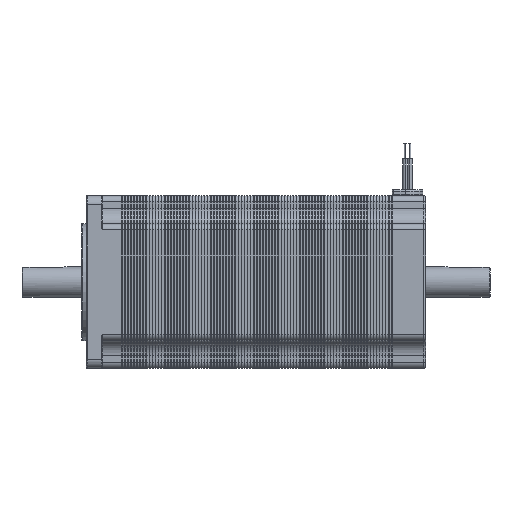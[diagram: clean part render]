
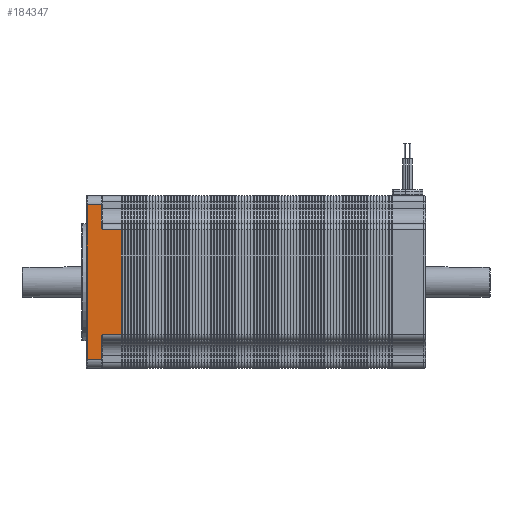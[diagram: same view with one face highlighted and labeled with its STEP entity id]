
A CAD part, left-side view. The second image highlights one B-rep face of the part: STEP entity #184347.
In plain terms, the highlighted planar face has unit normal (-1, 0, 0).
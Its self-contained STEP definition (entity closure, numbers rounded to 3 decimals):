
#2793 = CARTESIAN_POINT ( 'NONE',  ( -28.15, 105.3, -17. ) ) ;
#4144 = LINE ( 'NONE', #204596, #253954 ) ;
#9909 = CARTESIAN_POINT ( 'NONE',  ( -28.15, 110.5, -17. ) ) ;
#20121 = CARTESIAN_POINT ( 'NONE',  ( -28.15, 110.3, -25.15 ) ) ;
#20481 = EDGE_CURVE ( 'NONE', #45619, #99541, #4144, .T. ) ;
#23041 = VECTOR ( 'NONE', #101946, 1000. ) ;
#24345 = LINE ( 'NONE', #204063, #233262 ) ;
#27289 = VECTOR ( 'NONE', #246503, 1000. ) ;
#29866 = CARTESIAN_POINT ( 'NONE',  ( -28.15, 105.642, -17.823 ) ) ;
#36732 = EDGE_CURVE ( 'NONE', #45060, #283879, #41760, .T. ) ;
#36916 = LINE ( 'NONE', #126900, #23041 ) ;
#40984 = ORIENTED_EDGE ( 'NONE', *, *, #257391, .T. ) ;
#41760 = LINE ( 'NONE', #128791, #154842 ) ;
#45060 = VERTEX_POINT ( 'NONE', #2793 ) ;
#45619 = VERTEX_POINT ( 'NONE', #136235 ) ;
#53120 = EDGE_CURVE ( 'NONE', #228618, #99541, #150881, .T. ) ;
#56605 = VECTOR ( 'NONE', #184796, 1000. ) ;
#58598 = B_SPLINE_CURVE_WITH_KNOTS ( 'NONE', 3,
 ( #94891, #184632, #29866, #77100, #256784, #227374 ),
 .UNSPECIFIED., .F., .F.,
 ( 4, 2, 4 ),
 ( 0., 0.001, 0.001 ),
 .UNSPECIFIED. ) ;
#62019 = VERTEX_POINT ( 'NONE', #127206 ) ;
#62481 = CARTESIAN_POINT ( 'NONE',  ( -28.15, 105.5, -25.15 ) ) ;
#65725 = ORIENTED_EDGE ( 'NONE', *, *, #20481, .T. ) ;
#65806 = VECTOR ( 'NONE', #236710, 1000. ) ;
#66418 = CARTESIAN_POINT ( 'NONE',  ( -28.15, 105.7, 25.15 ) ) ;
#67718 = B_SPLINE_CURVE_WITH_KNOTS ( 'NONE', 3,
 ( #239286, #267327, #81755, #152372, #155271, #220096 ),
 .UNSPECIFIED., .F., .F.,
 ( 4, 2, 4 ),
 ( 0., 0.001, 0.001 ),
 .UNSPECIFIED. ) ;
#68230 = EDGE_CURVE ( 'NONE', #62019, #121652, #36916, .T. ) ;
#74904 = VERTEX_POINT ( 'NONE', #278764 ) ;
#77100 = CARTESIAN_POINT ( 'NONE',  ( -28.15, 105.491, -17.403 ) ) ;
#81598 = ORIENTED_EDGE ( 'NONE', *, *, #192171, .T. ) ;
#81755 = CARTESIAN_POINT ( 'NONE',  ( -28.15, 105.491, 17.403 ) ) ;
#94577 = ORIENTED_EDGE ( 'NONE', *, *, #174888, .T. ) ;
#94891 = CARTESIAN_POINT ( 'NONE',  ( -28.15, 105.7, -18.265 ) ) ;
#95636 = DIRECTION ( 'NONE',  ( 0., 0., -1. ) ) ;
#98029 = DIRECTION ( 'NONE',  ( 0., 0., 1. ) ) ;
#99541 = VERTEX_POINT ( 'NONE', #20121 ) ;
#101946 = DIRECTION ( 'NONE',  ( 0., -1., 0. ) ) ;
#114840 = CARTESIAN_POINT ( 'NONE',  ( -28.15, 99.1, -17. ) ) ;
#121601 = EDGE_CURVE ( 'NONE', #228618, #74904, #24345, .T. ) ;
#121652 = VERTEX_POINT ( 'NONE', #272010 ) ;
#124605 = ORIENTED_EDGE ( 'NONE', *, *, #154557, .T. ) ;
#126900 = CARTESIAN_POINT ( 'NONE',  ( -28.15, 110.5, 17. ) ) ;
#127206 = CARTESIAN_POINT ( 'NONE',  ( -28.15, 105.3, 17. ) ) ;
#128791 = CARTESIAN_POINT ( 'NONE',  ( -28.15, 110.5, -17. ) ) ;
#136235 = CARTESIAN_POINT ( 'NONE',  ( -28.15, 110.3, 25.15 ) ) ;
#136825 = DIRECTION ( 'NONE',  ( 0., 0., -1. ) ) ;
#139101 = CARTESIAN_POINT ( 'NONE',  ( -28.15, 99.1, -17. ) ) ;
#140078 = AXIS2_PLACEMENT_3D ( 'NONE', #9909, #228079, #95636 ) ;
#143940 = LINE ( 'NONE', #233828, #65806 ) ;
#144076 = PLANE ( 'NONE',  #140078 ) ;
#144911 = VECTOR ( 'NONE', #269419, 1000. ) ;
#147665 = CARTESIAN_POINT ( 'NONE',  ( -28.15, 105.7, -25.15 ) ) ;
#150881 = LINE ( 'NONE', #62481, #27289 ) ;
#152372 = CARTESIAN_POINT ( 'NONE',  ( -28.15, 105.642, 17.823 ) ) ;
#154557 = EDGE_CURVE ( 'NONE', #277179, #230722, #143940, .T. ) ;
#154842 = VECTOR ( 'NONE', #196562, 1000. ) ;
#155271 = CARTESIAN_POINT ( 'NONE',  ( -28.15, 105.7, 18.04 ) ) ;
#158615 = ORIENTED_EDGE ( 'NONE', *, *, #68230, .F. ) ;
#164224 = LINE ( 'NONE', #139101, #56605 ) ;
#168453 = ORIENTED_EDGE ( 'NONE', *, *, #36732, .T. ) ;
#174888 = EDGE_CURVE ( 'NONE', #283879, #121652, #164224, .T. ) ;
#182147 = ORIENTED_EDGE ( 'NONE', *, *, #264007, .T. ) ;
#184347 = ADVANCED_FACE ( 'NONE', ( #254584 ), #144076, .F. ) ;
#184632 = CARTESIAN_POINT ( 'NONE',  ( -28.15, 105.7, -18.04 ) ) ;
#184796 = DIRECTION ( 'NONE',  ( 0., 0., 1. ) ) ;
#187655 = EDGE_LOOP ( 'NONE', ( #40984, #65725, #212917, #238871, #81598, #168453, #94577, #158615, #182147, #124605 ) ) ;
#192171 = EDGE_CURVE ( 'NONE', #74904, #45060, #58598, .T. ) ;
#196562 = DIRECTION ( 'NONE',  ( 0., -1., 0. ) ) ;
#204063 = CARTESIAN_POINT ( 'NONE',  ( -28.15, 105.7, -17. ) ) ;
#204596 = CARTESIAN_POINT ( 'NONE',  ( -28.15, 110.3, -25.15 ) ) ;
#207361 = CARTESIAN_POINT ( 'NONE',  ( -28.15, 105.5, 25.15 ) ) ;
#212917 = ORIENTED_EDGE ( 'NONE', *, *, #53120, .F. ) ;
#217771 = CARTESIAN_POINT ( 'NONE',  ( -28.15, 105.7, 18.265 ) ) ;
#220096 = CARTESIAN_POINT ( 'NONE',  ( -28.15, 105.7, 18.265 ) ) ;
#227374 = CARTESIAN_POINT ( 'NONE',  ( -28.15, 105.3, -17. ) ) ;
#228079 = DIRECTION ( 'NONE',  ( 1., 0., 0. ) ) ;
#228618 = VERTEX_POINT ( 'NONE', #147665 ) ;
#230722 = VERTEX_POINT ( 'NONE', #66418 ) ;
#233262 = VECTOR ( 'NONE', #98029, 1000. ) ;
#233828 = CARTESIAN_POINT ( 'NONE',  ( -28.15, 105.7, -17. ) ) ;
#236710 = DIRECTION ( 'NONE',  ( 0., 0., 1. ) ) ;
#238871 = ORIENTED_EDGE ( 'NONE', *, *, #121601, .T. ) ;
#239286 = CARTESIAN_POINT ( 'NONE',  ( -28.15, 105.3, 17. ) ) ;
#246503 = DIRECTION ( 'NONE',  ( 0., 1., 0. ) ) ;
#251548 = LINE ( 'NONE', #207361, #144911 ) ;
#253954 = VECTOR ( 'NONE', #136825, 1000. ) ;
#254584 = FACE_OUTER_BOUND ( 'NONE', #187655, .T. ) ;
#256784 = CARTESIAN_POINT ( 'NONE',  ( -28.15, 105.395, -17.201 ) ) ;
#257391 = EDGE_CURVE ( 'NONE', #230722, #45619, #251548, .T. ) ;
#264007 = EDGE_CURVE ( 'NONE', #62019, #277179, #67718, .T. ) ;
#267327 = CARTESIAN_POINT ( 'NONE',  ( -28.15, 105.395, 17.202 ) ) ;
#269419 = DIRECTION ( 'NONE',  ( 0., 1., 0. ) ) ;
#272010 = CARTESIAN_POINT ( 'NONE',  ( -28.15, 99.1, 17. ) ) ;
#277179 = VERTEX_POINT ( 'NONE', #217771 ) ;
#278764 = CARTESIAN_POINT ( 'NONE',  ( -28.15, 105.7, -18.265 ) ) ;
#283879 = VERTEX_POINT ( 'NONE', #114840 ) ;
